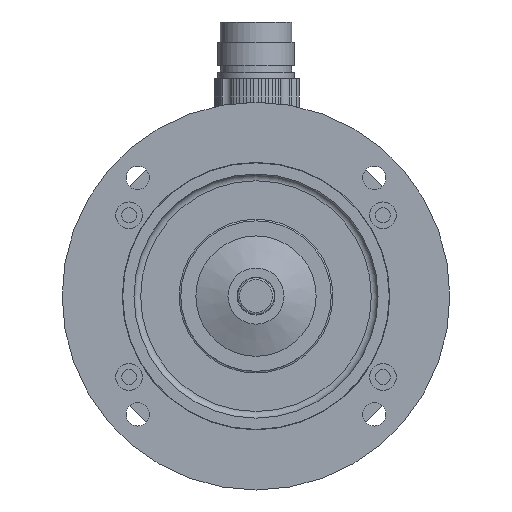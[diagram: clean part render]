
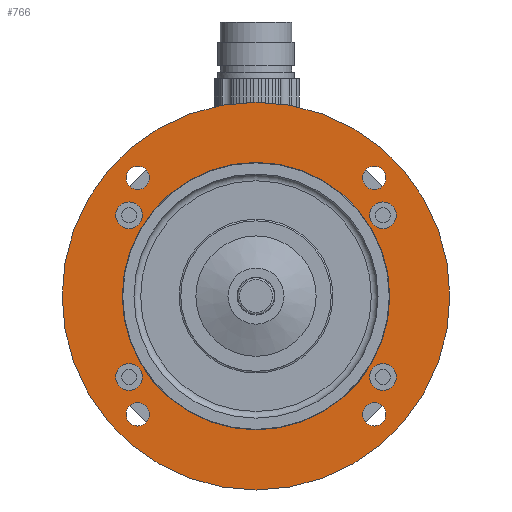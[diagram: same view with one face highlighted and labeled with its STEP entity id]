
A CAD part, front view. The second image highlights one B-rep face of the part: STEP entity #766.
In plain terms, the highlighted planar face has unit normal (0, -1, 0).
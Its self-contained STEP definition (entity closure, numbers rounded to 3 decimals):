
#766=ADVANCED_FACE('',(#1304,#1305,#1306,#1307,#1308,#1309,#1310,#1311,#1312,
#1120),#1040,.T.);
#1040=PLANE('',#4178);
#1120=FACE_OUTER_BOUND('',#1620,.T.);
#1304=FACE_BOUND('',#1611,.T.);
#1305=FACE_BOUND('',#1612,.T.);
#1306=FACE_BOUND('',#1613,.T.);
#1307=FACE_BOUND('',#1614,.T.);
#1308=FACE_BOUND('',#1615,.T.);
#1309=FACE_BOUND('',#1616,.T.);
#1310=FACE_BOUND('',#1617,.T.);
#1311=FACE_BOUND('',#1618,.T.);
#1312=FACE_BOUND('',#1619,.T.);
#1611=EDGE_LOOP('',(#2093));
#1612=EDGE_LOOP('',(#2094));
#1613=EDGE_LOOP('',(#2095));
#1614=EDGE_LOOP('',(#2096));
#1615=EDGE_LOOP('',(#2097));
#1616=EDGE_LOOP('',(#2098));
#1617=EDGE_LOOP('',(#2099));
#1618=EDGE_LOOP('',(#2100));
#1619=EDGE_LOOP('',(#2101));
#1620=EDGE_LOOP('',(#2102));
#2093=ORIENTED_EDGE('',*,*,#3368,.T.);
#2094=ORIENTED_EDGE('',*,*,#3369,.F.);
#2095=ORIENTED_EDGE('',*,*,#3370,.F.);
#2096=ORIENTED_EDGE('',*,*,#3371,.T.);
#2097=ORIENTED_EDGE('',*,*,#3372,.T.);
#2098=ORIENTED_EDGE('',*,*,#3373,.T.);
#2099=ORIENTED_EDGE('',*,*,#3374,.T.);
#2100=ORIENTED_EDGE('',*,*,#3375,.T.);
#2101=ORIENTED_EDGE('',*,*,#3376,.F.);
#2102=ORIENTED_EDGE('',*,*,#3377,.F.);
#3003=VERTEX_POINT('',#6179);
#3004=VERTEX_POINT('',#6181);
#3005=VERTEX_POINT('',#6183);
#3006=VERTEX_POINT('',#6185);
#3007=VERTEX_POINT('',#6187);
#3008=VERTEX_POINT('',#6189);
#3009=VERTEX_POINT('',#6191);
#3010=VERTEX_POINT('',#6193);
#3011=VERTEX_POINT('',#6195);
#3012=VERTEX_POINT('',#6197);
#3368=EDGE_CURVE('',#3003,#3003,#3823,.T.);
#3369=EDGE_CURVE('',#3004,#3004,#3824,.T.);
#3370=EDGE_CURVE('',#3005,#3005,#3825,.T.);
#3371=EDGE_CURVE('',#3006,#3006,#3826,.T.);
#3372=EDGE_CURVE('',#3007,#3007,#3827,.T.);
#3373=EDGE_CURVE('',#3008,#3008,#3828,.T.);
#3374=EDGE_CURVE('',#3009,#3009,#3829,.T.);
#3375=EDGE_CURVE('',#3010,#3010,#3830,.T.);
#3376=EDGE_CURVE('',#3011,#3011,#3831,.T.);
#3377=EDGE_CURVE('',#3012,#3012,#3832,.T.);
#3823=CIRCLE('',#4168,4.);
#3824=CIRCLE('',#4169,4.);
#3825=CIRCLE('',#4170,4.);
#3826=CIRCLE('',#4171,4.);
#3827=CIRCLE('',#4172,3.5);
#3828=CIRCLE('',#4173,3.5);
#3829=CIRCLE('',#4174,3.5);
#3830=CIRCLE('',#4175,3.5);
#3831=CIRCLE('',#4176,40.);
#3832=CIRCLE('',#4177,58.);
#4168=AXIS2_PLACEMENT_3D('',#6178,#4810,#4811);
#4169=AXIS2_PLACEMENT_3D('',#6180,#4812,#4813);
#4170=AXIS2_PLACEMENT_3D('',#6182,#4814,#4815);
#4171=AXIS2_PLACEMENT_3D('',#6184,#4816,#4817);
#4172=AXIS2_PLACEMENT_3D('',#6186,#4818,#4819);
#4173=AXIS2_PLACEMENT_3D('',#6188,#4820,#4821);
#4174=AXIS2_PLACEMENT_3D('',#6190,#4822,#4823);
#4175=AXIS2_PLACEMENT_3D('',#6192,#4824,#4825);
#4176=AXIS2_PLACEMENT_3D('',#6194,#4826,#4827);
#4177=AXIS2_PLACEMENT_3D('',#6196,#4828,#4829);
#4178=AXIS2_PLACEMENT_3D('',#6198,#4830,#4831);
#4810=DIRECTION('',(0.,1.,0.));
#4811=DIRECTION('',(0.,0.,-1.));
#4812=DIRECTION('',(0.,-1.,0.));
#4813=DIRECTION('',(0.,0.,-1.));
#4814=DIRECTION('',(0.,-1.,0.));
#4815=DIRECTION('',(0.,0.,1.));
#4816=DIRECTION('',(0.,1.,0.));
#4817=DIRECTION('',(0.,0.,1.));
#4818=DIRECTION('',(0.,1.,0.));
#4819=DIRECTION('',(-1.,0.,0.));
#4820=DIRECTION('',(0.,1.,0.));
#4821=DIRECTION('',(0.,0.,-1.));
#4822=DIRECTION('',(0.,1.,0.));
#4823=DIRECTION('',(1.,0.,0.));
#4824=DIRECTION('',(0.,1.,0.));
#4825=DIRECTION('',(0.,0.,1.));
#4826=DIRECTION('',(0.,-1.,0.));
#4827=DIRECTION('',(0.,0.,-1.));
#4828=DIRECTION('',(0.,1.,0.));
#4829=DIRECTION('',(0.,0.,1.));
#4830=DIRECTION('',(0.,-1.,0.));
#4831=DIRECTION('',(0.,0.,-1.));
#6178=CARTESIAN_POINT('',(37.953,0.,-24.178));
#6179=CARTESIAN_POINT('',(37.953,0.,-28.178));
#6180=CARTESIAN_POINT('',(-37.953,0.,-24.178));
#6181=CARTESIAN_POINT('',(-37.953,0.,-28.178));
#6182=CARTESIAN_POINT('',(37.953,0.,24.178));
#6183=CARTESIAN_POINT('',(37.953,0.,28.178));
#6184=CARTESIAN_POINT('',(-37.953,0.,24.178));
#6185=CARTESIAN_POINT('',(-37.953,0.,28.178));
#6186=CARTESIAN_POINT('',(-35.355,0.,-35.355));
#6187=CARTESIAN_POINT('',(-38.855,0.,-35.355));
#6188=CARTESIAN_POINT('',(35.355,0.,-35.355));
#6189=CARTESIAN_POINT('',(35.355,0.,-38.855));
#6190=CARTESIAN_POINT('',(35.355,0.,35.355));
#6191=CARTESIAN_POINT('',(38.855,0.,35.355));
#6192=CARTESIAN_POINT('',(-35.355,0.,35.355));
#6193=CARTESIAN_POINT('',(-35.355,0.,38.855));
#6194=CARTESIAN_POINT('',(0.,0.,0.));
#6195=CARTESIAN_POINT('',(0.,0.,-40.));
#6196=CARTESIAN_POINT('',(0.,0.,0.));
#6197=CARTESIAN_POINT('',(0.,0.,58.));
#6198=CARTESIAN_POINT('',(0.,0.,0.));
